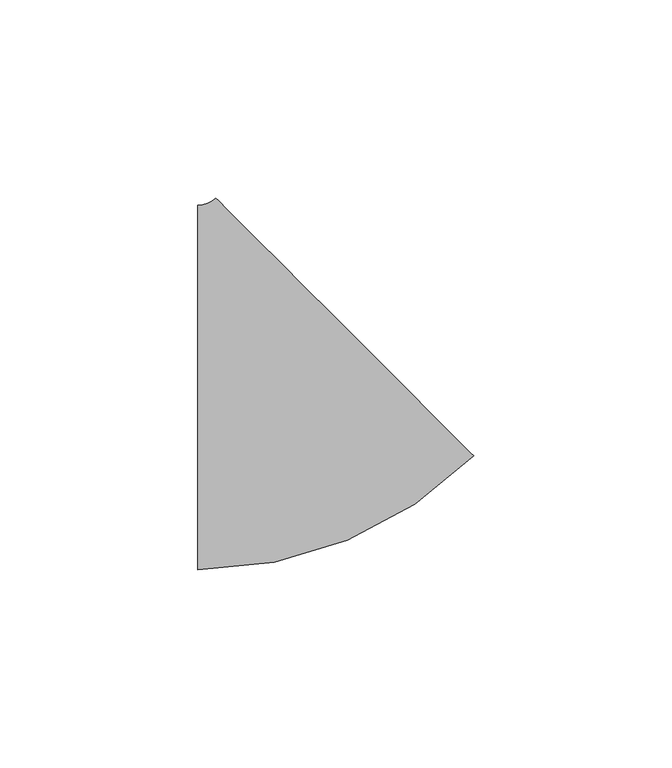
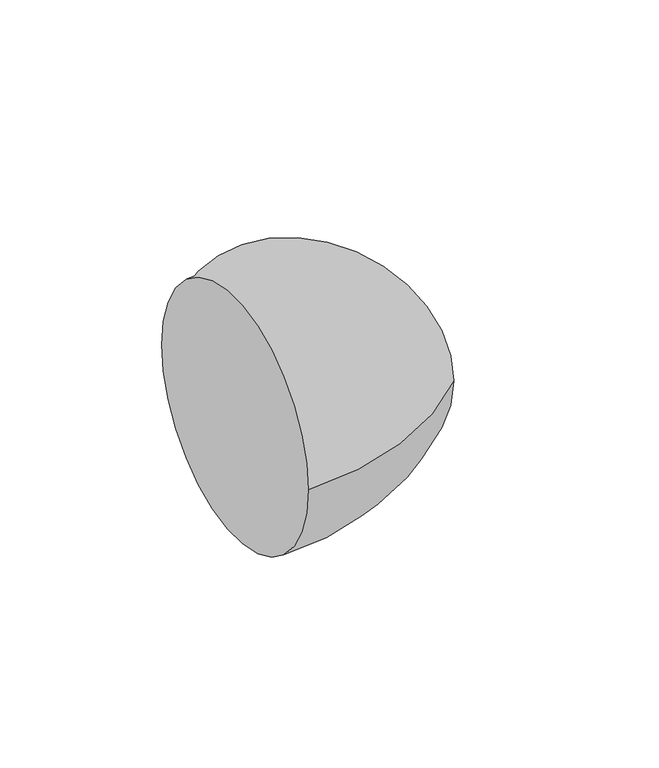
"""IFC4 building model written with IfcOpenShell, lengths in millimetres: pipe fitting geometry, M_Codo - Genérico : Estándar."""

from ifc_helpers import new_model, si_unit, point, frame, origin, place, context, project, spatial, circle_curve, ellipse_curve, trimmed, source, transform, mapped, element, save
from ifc_brep_helpers import plane_surface, revolved_surface, advanced_brep


def pipe_fitting_4a6b8cfe(model_context):
    return source(origin(), model_context, "Body", "AdvancedBrep", [
        advanced_brep(
        [(-21.699613, -46.0375, 0.0), (-21.699613, 46.0375, 0.0), (47.8973719, -17.2094849, 0.0), (-17.2094849, 47.8973719, 0.0)],
        [
            (0, 1, circle_curve(frame((-21.699613, 0.0, 0.0), z_axis=(-1.0, 0.0, 0.0), x_axis=(0.0, 1.0, 0.0)), 46.0375)),
            (1, 0, circle_curve(frame((-21.699613, 0.0, 0.0), z_axis=(-1.0, 0.0, 0.0), x_axis=(0.0, 1.0, 0.0)), 46.0375)),
            (2, 3, circle_curve(frame((15.3439435, 15.3439435, 0.0), z_axis=(0.7071067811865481, 0.7071067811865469, 0.0), x_axis=(-0.7071067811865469, 0.7071067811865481, 0.0)), 46.0375)),
            (3, 2, circle_curve(frame((15.3439435, 15.3439435, 0.0), z_axis=(0.7071067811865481, 0.7071067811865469, 0.0), x_axis=(-0.7071067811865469, 0.7071067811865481, 0.0)), 46.0375)),
            (3, 1, circle_curve(frame((-21.699613, 52.3875, 0.0), z_axis=(0.0, 0.0, -1.0), x_axis=(0.0, -1.0, 0.0)), 6.35)),
            (0, 2, circle_curve(frame((-21.699613, 52.3875, 0.0), z_axis=(0.0, 0.0, 1.0), x_axis=(0.0, -1.0, 0.0)), 98.425)),
        ],
        [
            plane_surface(frame((-21.699613, 0.0, 0.0), z_axis=(-1.0, 0.0, 0.0), x_axis=(0.0, 0.0, 1.0))),
            plane_surface(frame((15.3439435, 15.3439435, 0.0), z_axis=(0.707106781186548, 0.707106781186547, 0.0), x_axis=(0.0, 0.0, 1.0))),
            revolved_surface(trimmed(ellipse_curve(frame((-21.699613, 0.0, 0.0), z_axis=(-1.0, 0.0, 0.0), x_axis=(0.0, 1.0, 0.0)), 46.0375, 46.0375), [point((-21.699613, -46.0375, 0.0))], [point((-21.699613, 46.0375, 0.0))], True, "CARTESIAN"), (-21.699613, 52.3875, 0.0), (0.0, 0.0, 1.0)),
            revolved_surface(trimmed(ellipse_curve(frame((-21.699613, 0.0, 0.0), z_axis=(-1.0, 0.0, 0.0), x_axis=(0.0, 1.0, 0.0)), 46.0375, 46.0375), [point((-21.699613, 46.0375, 0.0))], [point((-21.699613, -46.0375, 0.0))], True, "CARTESIAN"), (-21.699613, 52.3875, 0.0), (0.0, 0.0, 1.0)),
        ],
        [
            (0, [[1, 2]]),
            (1, [[3, 4]]),
            (2, [[5, -1, 6, -4]]),
            (3, [[-6, -2, -5, -3]]),
        ],
    ),
    ])


if __name__ == "__main__":
    model = new_model("IFC4")
    model_context = context("Model", 3, world=origin())
    ifc_project = project(units=[si_unit("LENGTHUNIT", "METRE", prefix="MILLI")], contexts=[model_context])
    site = spatial("IfcSite", under=ifc_project)
    building = spatial("IfcBuilding", under=site)
    placement = place(None, origin())
    pipe_fitting_shape = pipe_fitting_4a6b8cfe(model_context)
    element("IfcPipeFitting", 1, ObjectType="M_Codo - Genérico : Estándar", at=placement, inside=building, context=model_context, shape_type="MappedRepresentation", body=[
        mapped(pipe_fitting_shape, transform((0.0, 0.0, 0.0), x_axis=(1.0, 0.0, 0.0), y_axis=(0.0, 1.0, 0.0), z_axis=(0.0, 0.0, 1.0))),
    ])
    save(model, "model.ifc")
